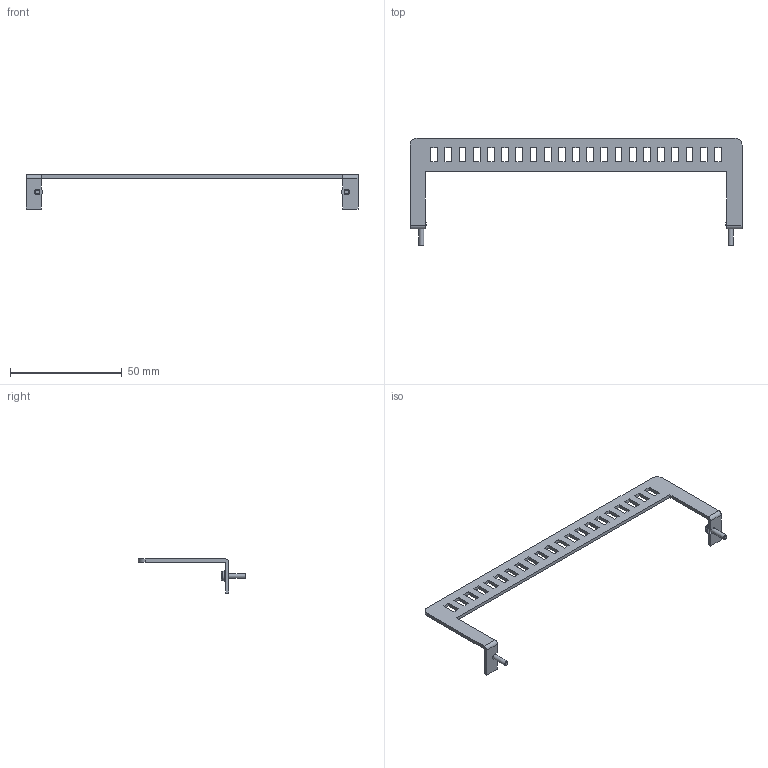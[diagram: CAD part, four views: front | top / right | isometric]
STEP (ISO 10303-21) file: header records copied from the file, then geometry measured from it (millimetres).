
FILE_DESCRIPTION(/* description */ ('SCREW'),/* implementation_level */ '2;1');
FILE_NAME(/* name */ 'C:\Marketing\Inventor Web Projects\STP files\7850302S-201-RevC-STP.stp',/* time_stamp */ '2014-02-21T08:57:25-05:00',/* author */ ('shodnett'),/* organization */ (''),/* preprocessor_version */ 'ST-DEVELOPER v15.2',/* originating_system */ 'Autodesk Inventor 2014',/* authorisation */ '');
FILE_SCHEMA (('AUTOMOTIVE_DESIGN { 1 0 10303 214 3 1 1 }'));
Length unit declared in the file: inch
Products named in the file (3): 256F205; 7850302SB201; 7850302S-201
Bounding box: 148.59 x 48.24 x 15.24 mm (x, y, z)
Volume: 3677.8 mm3; surface area: 6271.1 mm2
Topology: 3 solids, 3 shells, 162 faces, 454 edges, 302 vertices
Faces by surface type: plane 144, cylinder 14, torus 2, cone 2
Full cylindrical faces by diameter (mm): 2.184 x2, 4.191 x2, 4.699 x2
Entity records: 4547 total; most frequent: CARTESIAN_POINT 835, ORIENTED_EDGE 770, DIRECTION 686, EDGE_CURVE 385, LINE 346, VECTOR 346, VERTEX_POINT 259, EDGE_LOOP 186
